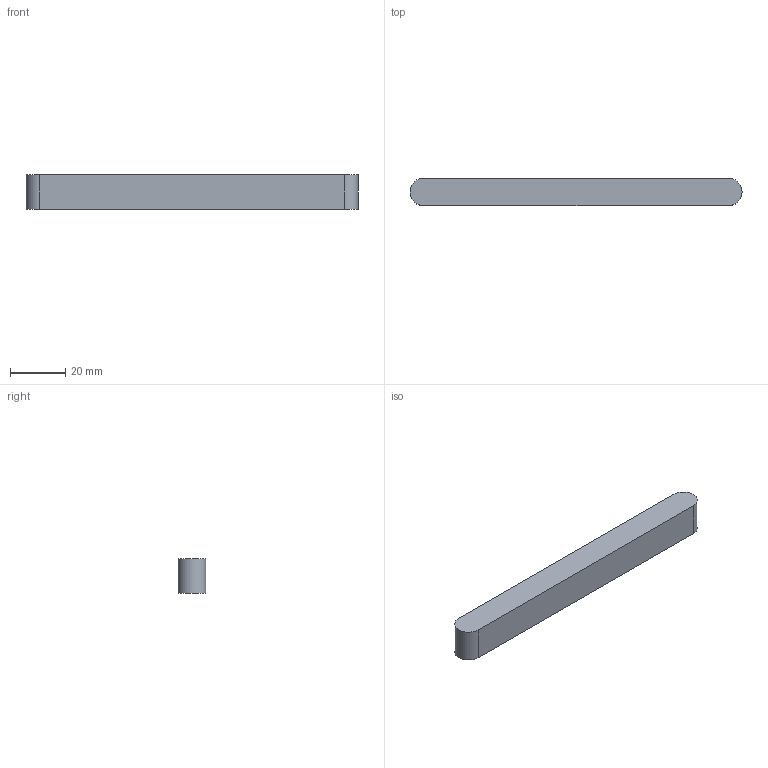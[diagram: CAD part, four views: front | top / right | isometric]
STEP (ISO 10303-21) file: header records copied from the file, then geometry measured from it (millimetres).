
FILE_DESCRIPTION(('Open CASCADE Model'),'2;1');
FILE_NAME('Open CASCADE Shape Model','2026-10-21T18:55:21',('Author'),( 'Open CASCADE'),'Open CASCADE STEP processor 8.0','build123d', 'Unknown');
FILE_SCHEMA(('AUTOMOTIVE_DESIGN { 1 0 10303 214 1 1 1 1 }'));
Length unit declared in the file: millimetre
Products named in the file (1): COMPOUND
Bounding box: 119.85 x 10 x 12.3 mm (x, y, z)
Volume: 14477.6 mm3; surface area: 5442.8 mm2
Topology: 1 solids, 1 shells, 6 faces, 12 edges, 8 vertices
Faces by surface type: plane 4, cylinder 2
Entity records: 338 total; most frequent: CARTESIAN_POINT 75, DIRECTION 50, LINE 28, VECTOR 28, ORIENTED_EDGE 24, PCURVE 24, DEFINITIONAL_REPRESENTATION 24, EDGE_CURVE 12
